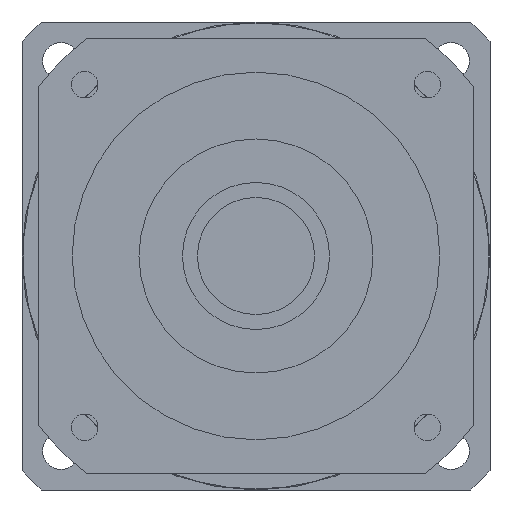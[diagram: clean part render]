
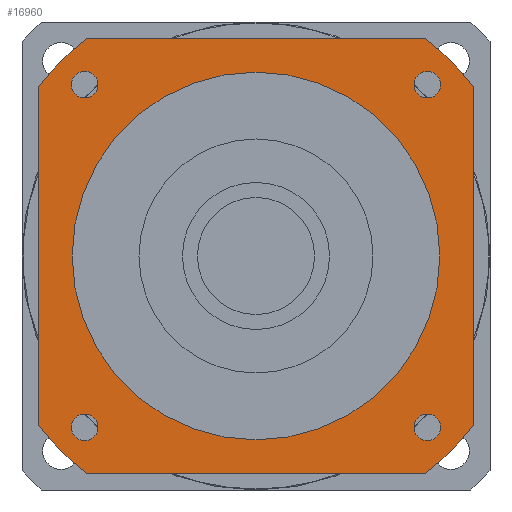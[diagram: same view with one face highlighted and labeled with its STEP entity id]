
A CAD part, left-side view. The second image highlights one B-rep face of the part: STEP entity #16960.
In plain terms, the highlighted planar face has unit normal (-1, 0, 0) as drawn and (0, 0, -1) by its records, which use the part's own axes.
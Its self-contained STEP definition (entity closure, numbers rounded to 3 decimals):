
#15260=CARTESIAN_POINT('',(55.265,-51.265,-87.7));
#15270=VERTEX_POINT('',#15260);
#15300=CARTESIAN_POINT('',(51.265,-51.265,-87.7));
#15310=DIRECTION('',(0.,0.,-1.));
#15320=DIRECTION('',(1.,0.,0.));
#15330=AXIS2_PLACEMENT_3D('',#15300,#15310,#15320);
#15340=CIRCLE('',#15330,4.);
#15350=CARTESIAN_POINT('',(47.265,-51.265,-87.7));
#15360=VERTEX_POINT('',#15350);
#15370=EDGE_CURVE('',#15360,#15270,#15340,.T.);
#15520=CARTESIAN_POINT('',(65.,65.,-87.7));
#15530=DIRECTION('',(0.,0.,-1.));
#15540=DIRECTION('',(1.,0.,0.));
#15550=AXIS2_PLACEMENT_3D('',#15520,#15530,#15540);
#15560=PLANE('',#15550);
#15570=CARTESIAN_POINT('',(-51.265,-51.265,-87.7));
#15580=DIRECTION('',(0.,0.,-1.));
#15590=DIRECTION('',(0.,-1.,0.));
#15600=AXIS2_PLACEMENT_3D('',#15570,#15580,#15590);
#15610=CIRCLE('',#15600,4.);
#15620=CARTESIAN_POINT('',(-51.265,-55.265,-87.7));
#15630=VERTEX_POINT('',#15620);
#15640=CARTESIAN_POINT('',(-51.265,-47.265,-87.7));
#15650=VERTEX_POINT('',#15640);
#15660=EDGE_CURVE('',#15630,#15650,#15610,.T.);
#15670=ORIENTED_EDGE('',*,*,#15660,.F.);
#15680=EDGE_CURVE('',#15650,#15630,#15610,.T.);
#15690=ORIENTED_EDGE('',*,*,#15680,.F.);
#15700=EDGE_LOOP('',(#15690,#15670));
#15710=FACE_BOUND('',#15700,.T.);
#15720=CARTESIAN_POINT('',(-51.265,51.265,-87.7));
#15730=DIRECTION('',(0.,0.,-1.));
#15740=DIRECTION('',(-1.,0.,0.));
#15750=AXIS2_PLACEMENT_3D('',#15720,#15730,#15740);
#15760=CIRCLE('',#15750,4.);
#15770=CARTESIAN_POINT('',(-55.265,51.265,-87.7));
#15780=VERTEX_POINT('',#15770);
#15790=CARTESIAN_POINT('',(-47.265,51.265,-87.7));
#15800=VERTEX_POINT('',#15790);
#15810=EDGE_CURVE('',#15780,#15800,#15760,.T.);
#15820=ORIENTED_EDGE('',*,*,#15810,.F.);
#15830=EDGE_CURVE('',#15800,#15780,#15760,.T.);
#15840=ORIENTED_EDGE('',*,*,#15830,.F.);
#15850=EDGE_LOOP('',(#15840,#15820));
#15860=FACE_BOUND('',#15850,.T.);
#15870=CARTESIAN_POINT('',(51.265,51.265,-87.7));
#15880=DIRECTION('',(0.,0.,-1.));
#15890=DIRECTION('',(0.,1.,0.));
#15900=AXIS2_PLACEMENT_3D('',#15870,#15880,#15890);
#15910=CIRCLE('',#15900,4.);
#15920=CARTESIAN_POINT('',(51.265,55.265,-87.7));
#15930=VERTEX_POINT('',#15920);
#15940=CARTESIAN_POINT('',(51.265,47.265,-87.7));
#15950=VERTEX_POINT('',#15940);
#15960=EDGE_CURVE('',#15930,#15950,#15910,.T.);
#15970=ORIENTED_EDGE('',*,*,#15960,.F.);
#15980=EDGE_CURVE('',#15950,#15930,#15910,.T.);
#15990=ORIENTED_EDGE('',*,*,#15980,.F.);
#16000=EDGE_LOOP('',(#15990,#15970));
#16010=FACE_BOUND('',#16000,.T.);
#16020=CARTESIAN_POINT('',(0.,0.,
-87.7));
#16030=DIRECTION('',(0.,0.,1.));
#16040=DIRECTION('',(0.,1.,0.));
#16050=AXIS2_PLACEMENT_3D('',#16020,#16030,#16040);
#16060=CIRCLE('',#16050,55.);
#16070=CARTESIAN_POINT('',(-55.,0.,-87.7));
#16080=VERTEX_POINT('',#16070);
#16090=CARTESIAN_POINT('',(55.,0.,-87.7));
#16100=VERTEX_POINT('',#16090);
#16110=EDGE_CURVE('',#16080,#16100,#16060,.T.);
#16120=ORIENTED_EDGE('',*,*,#16110,.T.);
#16130=CARTESIAN_POINT('',(0.,55.,-87.7));
#16140=VERTEX_POINT('',#16130);
#16150=EDGE_CURVE('',#16140,#16080,#16060,.T.);
#16160=ORIENTED_EDGE('',*,*,#16150,.T.);
#16170=EDGE_CURVE('',#16100,#16140,#16060,.T.);
#16180=ORIENTED_EDGE('',*,*,#16170,.T.);
#16190=EDGE_LOOP('',(#16180,#16160,#16120));
#16200=FACE_BOUND('',#16190,.T.);
#16210=CARTESIAN_POINT('',(-65.,65.,-87.7));
#16220=DIRECTION('',(1.,0.,0.));
#16230=VECTOR('',#16220,1000.);
#16240=LINE('',#16210,#16230);
#16250=CARTESIAN_POINT('',(-50.806,65.,-87.7));
#16260=VERTEX_POINT('',#16250);
#16270=CARTESIAN_POINT('',(50.806,65.,-87.7));
#16280=VERTEX_POINT('',#16270);
#16290=EDGE_CURVE('',#16260,#16280,#16240,.T.);
#16300=ORIENTED_EDGE('',*,*,#16290,.T.);
#16310=CARTESIAN_POINT('',(0.,0.,
-87.7));
#16320=DIRECTION('',(0.,0.,-1.));
#16330=DIRECTION('',(1.,0.,0.));
#16340=AXIS2_PLACEMENT_3D('',#16310,#16320,#16330);
#16350=CIRCLE('',#16340,82.5);
#16360=CARTESIAN_POINT('',(-65.,50.806,-87.7));
#16370=VERTEX_POINT('',#16360);
#16380=EDGE_CURVE('',#16370,#16260,#16350,.T.);
#16390=ORIENTED_EDGE('',*,*,#16380,.T.);
#16400=CARTESIAN_POINT('',(-65.,-65.,-87.7));
#16410=DIRECTION('',(0.,1.,0.));
#16420=VECTOR('',#16410,1000.);
#16430=LINE('',#16400,#16420);
#16440=CARTESIAN_POINT('',(-65.,-50.806,-87.7));
#16450=VERTEX_POINT('',#16440);
#16460=EDGE_CURVE('',#16450,#16370,#16430,.T.);
#16470=ORIENTED_EDGE('',*,*,#16460,.T.);
#16480=CARTESIAN_POINT('',(0.,0.,
-87.7));
#16490=DIRECTION('',(0.,0.,-1.));
#16500=DIRECTION('',(1.,0.,0.));
#16510=AXIS2_PLACEMENT_3D('',#16480,#16490,#16500);
#16520=CIRCLE('',#16510,82.5);
#16530=CARTESIAN_POINT('',(-50.806,-65.,-87.7));
#16540=VERTEX_POINT('',#16530);
#16550=EDGE_CURVE('',#16540,#16450,#16520,.T.);
#16560=ORIENTED_EDGE('',*,*,#16550,.T.);
#16570=CARTESIAN_POINT('',(65.,-65.,-87.7));
#16580=DIRECTION('',(-1.,0.,0.));
#16590=VECTOR('',#16580,1000.);
#16600=LINE('',#16570,#16590);
#16610=CARTESIAN_POINT('',(50.806,-65.,-87.7));
#16620=VERTEX_POINT('',#16610);
#16630=EDGE_CURVE('',#16620,#16540,#16600,.T.);
#16640=ORIENTED_EDGE('',*,*,#16630,.T.);
#16650=CARTESIAN_POINT('',(0.,0.,
-87.7));
#16660=DIRECTION('',(0.,0.,-1.));
#16670=DIRECTION('',(1.,0.,0.));
#16680=AXIS2_PLACEMENT_3D('',#16650,#16660,#16670);
#16690=CIRCLE('',#16680,82.5);
#16700=CARTESIAN_POINT('',(65.,-50.806,-87.7));
#16710=VERTEX_POINT('',#16700);
#16720=EDGE_CURVE('',#16710,#16620,#16690,.T.);
#16730=ORIENTED_EDGE('',*,*,#16720,.T.);
#16740=CARTESIAN_POINT('',(65.,65.,-87.7));
#16750=DIRECTION('',(0.,-1.,0.));
#16760=VECTOR('',#16750,1000.);
#16770=LINE('',#16740,#16760);
#16780=CARTESIAN_POINT('',(65.,50.806,-87.7));
#16790=VERTEX_POINT('',#16780);
#16800=EDGE_CURVE('',#16790,#16710,#16770,.T.);
#16810=ORIENTED_EDGE('',*,*,#16800,.T.);
#16820=CARTESIAN_POINT('',(0.,0.,
-87.7));
#16830=DIRECTION('',(0.,0.,-1.));
#16840=DIRECTION('',(1.,0.,0.));
#16850=AXIS2_PLACEMENT_3D('',#16820,#16830,#16840);
#16860=CIRCLE('',#16850,82.5);
#16870=EDGE_CURVE('',#16280,#16790,#16860,.T.);
#16880=ORIENTED_EDGE('',*,*,#16870,.T.);
#16890=EDGE_LOOP('',(#16880,#16810,#16730,#16640,#16560,#16470,#16390,
#16300));
#16900=FACE_OUTER_BOUND('',#16890,.T.);
#16910=EDGE_CURVE('',#15270,#15360,#15340,.T.);
#16920=ORIENTED_EDGE('',*,*,#16910,.F.);
#16930=ORIENTED_EDGE('',*,*,#15370,.F.);
#16940=EDGE_LOOP('',(#16930,#16920));
#16950=FACE_BOUND('',#16940,.T.);
#16960=ADVANCED_FACE('',(#15710,#15860,#16010,#16200,#16900,#16950),
#15560,.T.);
